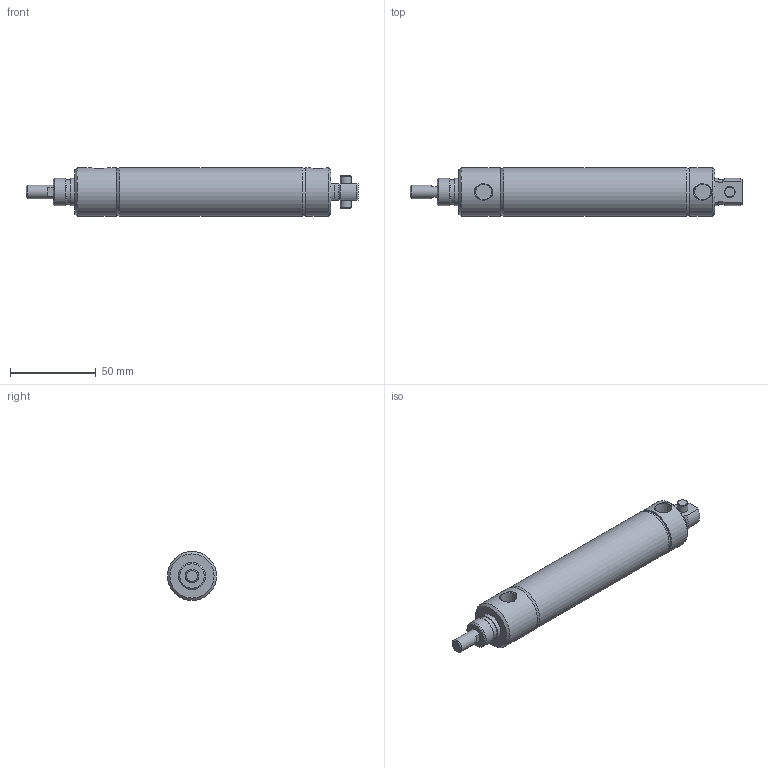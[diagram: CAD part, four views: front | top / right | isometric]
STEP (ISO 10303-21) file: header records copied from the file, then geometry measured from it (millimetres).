
FILE_DESCRIPTION( ( 'STEP AP214' ), '1' );
FILE_NAME( 'p:/temp/worker_458/temp/exporttempdir_81956_307_F8Rsa/format_0/1062D02-03A-03.stp', '2020-05-07T16:43:56', ( 'License CC BY-ND 4.0' ), ( 'CADENAS' ), ' ', 'PARTsolutions', ' ' );
FILE_SCHEMA( ( 'AUTOMOTIVE_DESIGN { 1 0 10303 214 1 1 1 1 }' ) );
Length unit declared in the file: inch
Products named in the file (3): 1062D02-03A-03; _1062D02-03A-031062D02-03A-0300A00A0b; _1062D02-03A-031062D02-03A-0300A00A0r
Assembly tree (2 placements, depth 2):
  1062D02-03A-03
    _1062D02-03A-031062D02-03A-0300A00A0b
    _1062D02-03A-031062D02-03A-0300A00A0r
Bounding box: 193.68 x 28.57 x 28.57 mm (x, y, z)
Volume: 58841.3 mm3; surface area: 34902.4 mm2
Topology: 2 solids, 2 shells, 65 faces, 129 edges, 83 vertices
Faces by surface type: plane 27, cone 19, cylinder 19
Full cylindrical faces by diameter (mm): 6.35 x2, 7.95 x3, 14.196 x1, 15.85 x1, 15.875 x1, 26.987 x2, 28.397 x1, 28.575 x2
Entity records: 2276 total; most frequent: CARTESIAN_POINT 442, DIRECTION 280, ORIENTED_EDGE 204, AXIS2_PLACEMENT_3D 126, EDGE_LOOP 104, EDGE_CURVE 102, VERTEX_POINT 80, FACE_OUTER_BOUND 78
